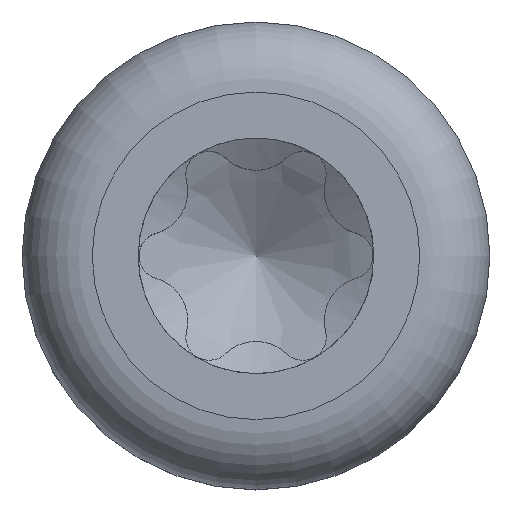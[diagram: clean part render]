
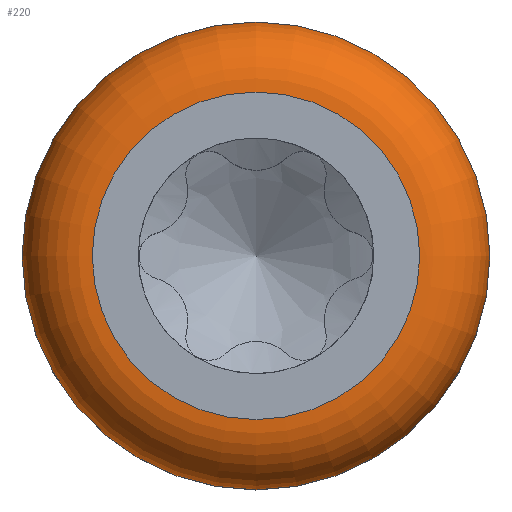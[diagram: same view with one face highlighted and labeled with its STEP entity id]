
A CAD part, top view. The second image highlights one B-rep face of the part: STEP entity #220.
In plain terms, the highlighted toroidal (fillet/blend) face has major radius 1.96 mm and minor radius 0.84 mm.
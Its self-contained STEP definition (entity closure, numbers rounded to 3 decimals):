
#183=TOROIDAL_SURFACE('',#1117,1.96,0.84);
#194=FACE_BOUND('',#367,.T.);
#195=FACE_BOUND('',#368,.T.);
#220=ADVANCED_FACE('',(#194,#195),#183,.T.);
#367=EDGE_LOOP('',(#500));
#368=EDGE_LOOP('',(#501));
#443=CIRCLE('',#1114,2.8);
#444=CIRCLE('',#1116,1.96);
#500=ORIENTED_EDGE('',*,*,#901,.F.);
#501=ORIENTED_EDGE('',*,*,#900,.T.);
#798=VERTEX_POINT('',#2897);
#799=VERTEX_POINT('',#2900);
#900=EDGE_CURVE('',#798,#798,#443,.T.);
#901=EDGE_CURVE('',#799,#799,#444,.T.);
#1114=AXIS2_PLACEMENT_3D('',#2896,#1172,#1173);
#1116=AXIS2_PLACEMENT_3D('',#2899,#1176,#1177);
#1117=AXIS2_PLACEMENT_3D('',#2901,#1178,#1179);
#1172=DIRECTION('',(0.,0.,1.));
#1173=DIRECTION('',(1.,0.,0.));
#1176=DIRECTION('',(0.,0.,1.));
#1177=DIRECTION('',(1.,0.,0.));
#1178=DIRECTION('',(0.,0.,1.));
#1179=DIRECTION('',(1.,0.,0.));
#2896=CARTESIAN_POINT('',(0.,0.,1.26));
#2897=CARTESIAN_POINT('',(2.8,0.,1.26));
#2899=CARTESIAN_POINT('',(0.,0.,2.1));
#2900=CARTESIAN_POINT('',(1.96,0.,2.1));
#2901=CARTESIAN_POINT('',(0.,0.,1.26));
